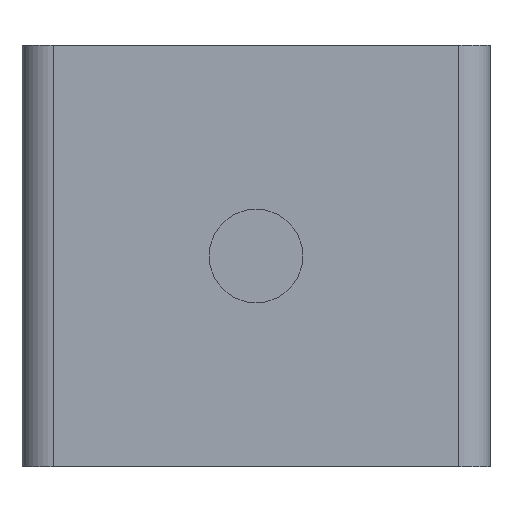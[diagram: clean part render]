
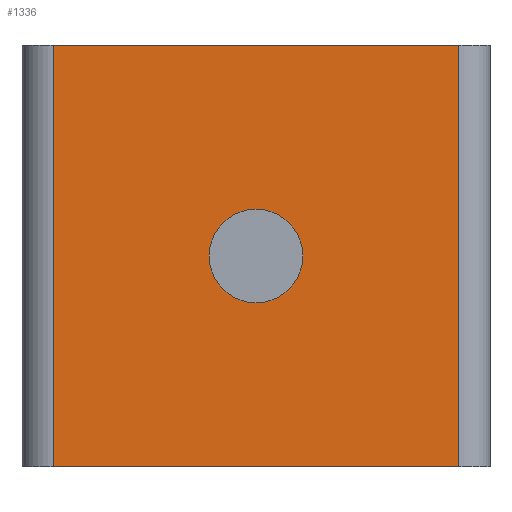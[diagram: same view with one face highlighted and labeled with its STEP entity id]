
A CAD part, front view. The second image highlights one B-rep face of the part: STEP entity #1336.
In plain terms, the highlighted planar face has unit normal (0, -1, 0).
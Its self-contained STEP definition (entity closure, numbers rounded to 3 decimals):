
#64 = CARTESIAN_POINT ( 'NONE',  ( 13., -49., -13.5 ) ) ;
#141 = CARTESIAN_POINT ( 'NONE',  ( 13., -49., 0. ) ) ;
#161 = DIRECTION ( 'NONE',  ( 0., 0., 1. ) ) ;
#210 = EDGE_CURVE ( 'NONE', #1760, #2340, #2366, .T. ) ;
#213 = EDGE_LOOP ( 'NONE', ( #681, #884 ) ) ;
#230 = ORIENTED_EDGE ( 'NONE', *, *, #210, .T. ) ;
#231 = ORIENTED_EDGE ( 'NONE', *, *, #259, .T. ) ;
#232 = DIRECTION ( 'NONE',  ( 1., 0., 0. ) ) ;
#240 = CARTESIAN_POINT ( 'NONE',  ( 0., -49., -13.5 ) ) ;
#259 = EDGE_CURVE ( 'NONE', #2060, #1866, #741, .T. ) ;
#358 = EDGE_LOOP ( 'NONE', ( #1096, #231, #2471, #230 ) ) ;
#446 = DIRECTION ( 'NONE',  ( 0., 0., 1. ) ) ;
#525 = VECTOR ( 'NONE', #1773, 1000. ) ;
#681 = ORIENTED_EDGE ( 'NONE', *, *, #754, .F. ) ;
#741 = LINE ( 'NONE', #64, #2314 ) ;
#754 = EDGE_CURVE ( 'NONE', #1339, #946, #2062, .T. ) ;
#884 = ORIENTED_EDGE ( 'NONE', *, *, #1250, .F. ) ;
#946 = VERTEX_POINT ( 'NONE', #1531 ) ;
#992 = LINE ( 'NONE', #1241, #1065 ) ;
#1053 = CARTESIAN_POINT ( 'NONE',  ( -13., -49., -27. ) ) ;
#1064 = CARTESIAN_POINT ( 'NONE',  ( -13., -49., -13.5 ) ) ;
#1065 = VECTOR ( 'NONE', #232, 1000. ) ;
#1096 = ORIENTED_EDGE ( 'NONE', *, *, #1675, .T. ) ;
#1167 = CARTESIAN_POINT ( 'NONE',  ( 0., -49., 0. ) ) ;
#1241 = CARTESIAN_POINT ( 'NONE',  ( 0., -49., -27. ) ) ;
#1250 = EDGE_CURVE ( 'NONE', #946, #1339, #1570, .T. ) ;
#1268 = AXIS2_PLACEMENT_3D ( 'NONE', #240, #1657, #446 ) ;
#1285 = VECTOR ( 'NONE', #2300, 1000. ) ;
#1336 = ADVANCED_FACE ( 'NONE', ( #1919, #2470 ), #2206, .F. ) ;
#1339 = VERTEX_POINT ( 'NONE', #1589 ) ;
#1368 = DIRECTION ( 'NONE',  ( 0., -1., 0. ) ) ;
#1379 = CARTESIAN_POINT ( 'NONE',  ( -13., -49., -27. ) ) ;
#1386 = DIRECTION ( 'NONE',  ( 0., 0., 1. ) ) ;
#1489 = EDGE_CURVE ( 'NONE', #1866, #1760, #2151, .T. ) ;
#1531 = CARTESIAN_POINT ( 'NONE',  ( 0., -49., -16.5 ) ) ;
#1560 = AXIS2_PLACEMENT_3D ( 'NONE', #2594, #1368, #161 ) ;
#1570 = CIRCLE ( 'NONE', #1560, 3. ) ;
#1589 = CARTESIAN_POINT ( 'NONE',  ( 0., -49., -10.5 ) ) ;
#1657 = DIRECTION ( 'NONE',  ( 0., -1., 0. ) ) ;
#1675 = EDGE_CURVE ( 'NONE', #2340, #2060, #992, .T. ) ;
#1760 = VERTEX_POINT ( 'NONE', #2616 ) ;
#1773 = DIRECTION ( 'NONE',  ( -1., 0., 0. ) ) ;
#1866 = VERTEX_POINT ( 'NONE', #141 ) ;
#1919 = FACE_BOUND ( 'NONE', #213, .T. ) ;
#2009 = DIRECTION ( 'NONE',  ( 0., 0., 1. ) ) ;
#2060 = VERTEX_POINT ( 'NONE', #2252 ) ;
#2062 = CIRCLE ( 'NONE', #1268, 3. ) ;
#2151 = LINE ( 'NONE', #1167, #525 ) ;
#2206 = PLANE ( 'NONE',  #2260 ) ;
#2252 = CARTESIAN_POINT ( 'NONE',  ( 13., -49., -27. ) ) ;
#2260 = AXIS2_PLACEMENT_3D ( 'NONE', #1379, #2609, #1386 ) ;
#2300 = DIRECTION ( 'NONE',  ( 0., 0., -1. ) ) ;
#2314 = VECTOR ( 'NONE', #2009, 1000. ) ;
#2340 = VERTEX_POINT ( 'NONE', #1053 ) ;
#2366 = LINE ( 'NONE', #1064, #1285 ) ;
#2470 = FACE_OUTER_BOUND ( 'NONE', #358, .T. ) ;
#2471 = ORIENTED_EDGE ( 'NONE', *, *, #1489, .T. ) ;
#2594 = CARTESIAN_POINT ( 'NONE',  ( 0., -49., -13.5 ) ) ;
#2609 = DIRECTION ( 'NONE',  ( 0., 1., 0. ) ) ;
#2616 = CARTESIAN_POINT ( 'NONE',  ( -13., -49., 0. ) ) ;
